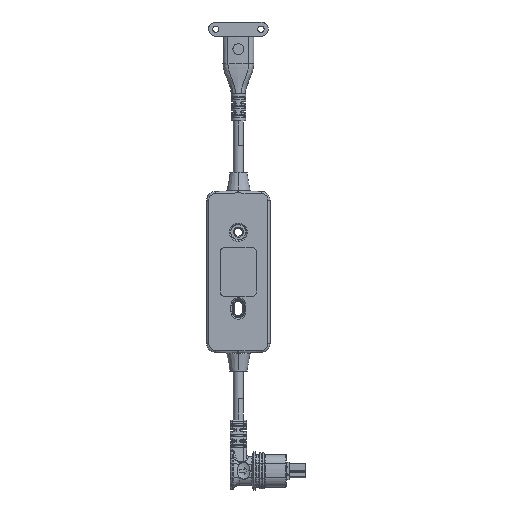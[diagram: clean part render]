
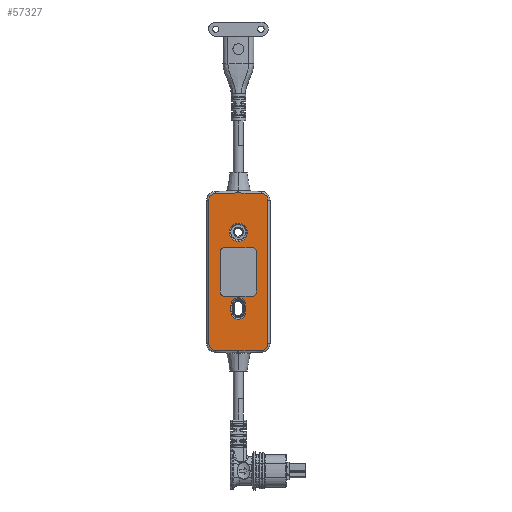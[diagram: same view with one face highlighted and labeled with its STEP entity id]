
A CAD part, front view. The second image highlights one B-rep face of the part: STEP entity #57327.
In plain terms, the highlighted planar face has unit normal (0, -1, 0).
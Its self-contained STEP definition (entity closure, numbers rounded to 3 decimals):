
#20469=CARTESIAN_POINT('',(0.,-7.75,-22.));
#20470=DIRECTION('',(0.,1.,0.));
#20471=DIRECTION('',(1.,0.,0.));
#20472=AXIS2_PLACEMENT_3D('',#20469,#20470,#20471);
#20474=DIRECTION('',(0.,0.,-1.));
#20475=VECTOR('',#20474,3.6);
#20476=CARTESIAN_POINT('',(4.118,-7.75,-18.4));
#20477=LINE('',#20476,#20475);
#20478=CARTESIAN_POINT('',(0.,-7.75,-18.4));
#20479=DIRECTION('',(0.,1.,0.));
#20480=DIRECTION('',(-1.,0.,0.));
#20481=AXIS2_PLACEMENT_3D('',#20478,#20479,#20480);
#20483=DIRECTION('',(0.,0.,1.));
#20484=VECTOR('',#20483,3.6);
#20485=CARTESIAN_POINT('',(-4.118,-7.75,-22.));
#20486=LINE('',#20485,#20484);
#20487=CARTESIAN_POINT('',(0.,-7.75,22.));
#20488=DIRECTION('',(0.,1.,0.));
#20489=DIRECTION('',(0.,0.,-1.));
#20490=AXIS2_PLACEMENT_3D('',#20487,#20488,#20489);
#20492=CARTESIAN_POINT('',(0.,-7.75,22.));
#20493=DIRECTION('',(0.,1.,0.));
#20494=DIRECTION('',(0.,0.,1.));
#20495=AXIS2_PLACEMENT_3D('',#20492,#20493,#20494);
#20497=DIRECTION('',(0.,0.,1.));
#20498=VECTOR('',#20497,79.162);
#20499=CARTESIAN_POINT('',(16.382,-7.75,-39.581));
#20500=LINE('',#20499,#20498);
#20501=CARTESIAN_POINT('',(12.5,-7.75,-39.581));
#20502=DIRECTION('',(0.,-1.,0.));
#20503=DIRECTION('',(0.017,0.,-1.));
#20504=AXIS2_PLACEMENT_3D('',#20501,#20502,#20503);
#20506=DIRECTION('',(1.,0.,0.017));
#20507=VECTOR('',#20506,12.24);
#20508=CARTESIAN_POINT('',(0.33,-7.75,-43.676));
#20509=LINE('',#20508,#20507);
#20510=CARTESIAN_POINT('',(0.,-7.75,-24.797));
#20511=DIRECTION('',(0.,-1.,0.));
#20512=DIRECTION('',(-0.017,0.,-1.));
#20513=AXIS2_PLACEMENT_3D('',#20510,#20511,#20512);
#20515=DIRECTION('',(1.,0.,-0.017));
#20516=VECTOR('',#20515,12.24);
#20517=CARTESIAN_POINT('',(-12.568,-7.75,-43.462));
#20518=LINE('',#20517,#20516);
#20519=CARTESIAN_POINT('',(-12.5,-7.75,-39.581));
#20520=DIRECTION('',(0.,-1.,0.));
#20521=DIRECTION('',(-1.,0.,0.));
#20522=AXIS2_PLACEMENT_3D('',#20519,#20520,#20521);
#20524=DIRECTION('',(0.,0.,-1.));
#20525=VECTOR('',#20524,79.162);
#20526=CARTESIAN_POINT('',(-16.382,-7.75,39.581));
#20527=LINE('',#20526,#20525);
#20528=CARTESIAN_POINT('',(-12.5,-7.75,39.581));
#20529=DIRECTION('',(0.,-1.,0.));
#20530=DIRECTION('',(-0.017,0.,1.));
#20531=AXIS2_PLACEMENT_3D('',#20528,#20529,#20530);
#20533=DIRECTION('',(-1.,0.,-0.017));
#20534=VECTOR('',#20533,12.24);
#20535=CARTESIAN_POINT('',(-0.33,-7.75,43.676));
#20536=LINE('',#20535,#20534);
#20537=CARTESIAN_POINT('',(0.,-7.75,24.797));
#20538=DIRECTION('',(0.,-1.,0.));
#20539=DIRECTION('',(0.017,0.,1.));
#20540=AXIS2_PLACEMENT_3D('',#20537,#20538,#20539);
#20542=DIRECTION('',(-1.,0.,0.017));
#20543=VECTOR('',#20542,12.24);
#20544=CARTESIAN_POINT('',(12.568,-7.75,43.462));
#20545=LINE('',#20544,#20543);
#20546=CARTESIAN_POINT('',(12.5,-7.75,39.581));
#20547=DIRECTION('',(0.,-1.,0.));
#20548=DIRECTION('',(1.,0.,0.));
#20549=AXIS2_PLACEMENT_3D('',#20546,#20547,#20548);
#20551=CARTESIAN_POINT('',(-7.6,-7.75,-11.1));
#20552=DIRECTION('',(0.,-1.,0.));
#20553=DIRECTION('',(-1.,0.,0.));
#20554=AXIS2_PLACEMENT_3D('',#20551,#20552,#20553);
#20556=DIRECTION('',(1.,0.,0.));
#20557=VECTOR('',#20556,15.2);
#20558=CARTESIAN_POINT('',(-7.6,-7.75,-13.509));
#20559=LINE('',#20558,#20557);
#20560=CARTESIAN_POINT('',(7.6,-7.75,-11.1));
#20561=DIRECTION('',(0.,-1.,0.));
#20562=DIRECTION('',(0.,0.,-1.));
#20563=AXIS2_PLACEMENT_3D('',#20560,#20561,#20562);
#20565=DIRECTION('',(0.,0.,1.));
#20566=VECTOR('',#20565,22.2);
#20567=CARTESIAN_POINT('',(10.009,-7.75,-11.1));
#20568=LINE('',#20567,#20566);
#20569=CARTESIAN_POINT('',(7.6,-7.75,11.1));
#20570=DIRECTION('',(0.,-1.,0.));
#20571=DIRECTION('',(1.,0.,0.));
#20572=AXIS2_PLACEMENT_3D('',#20569,#20570,#20571);
#20574=DIRECTION('',(-1.,0.,0.));
#20575=VECTOR('',#20574,15.2);
#20576=CARTESIAN_POINT('',(7.6,-7.75,13.509));
#20577=LINE('',#20576,#20575);
#20578=CARTESIAN_POINT('',(-7.6,-7.75,11.1));
#20579=DIRECTION('',(0.,-1.,0.));
#20580=DIRECTION('',(0.,0.,1.));
#20581=AXIS2_PLACEMENT_3D('',#20578,#20579,#20580);
#20583=DIRECTION('',(0.,0.,-1.));
#20584=VECTOR('',#20583,22.2);
#20585=CARTESIAN_POINT('',(-10.009,-7.75,11.1));
#20586=LINE('',#20585,#20584);
#22199=CARTESIAN_POINT('',(-10.009,-7.75,-11.1));
#22200=CARTESIAN_POINT('',(-7.6,-7.75,-13.509));
#22201=VERTEX_POINT('',#22199);
#22202=VERTEX_POINT('',#22200);
#22203=CARTESIAN_POINT('',(7.6,-7.75,-13.509));
#22204=VERTEX_POINT('',#22203);
#22205=CARTESIAN_POINT('',(10.009,-7.75,-11.1));
#22206=VERTEX_POINT('',#22205);
#22207=CARTESIAN_POINT('',(10.009,-7.75,11.1));
#22208=VERTEX_POINT('',#22207);
#22209=CARTESIAN_POINT('',(7.6,-7.75,13.509));
#22210=VERTEX_POINT('',#22209);
#22211=CARTESIAN_POINT('',(-7.6,-7.75,13.509));
#22212=VERTEX_POINT('',#22211);
#22213=CARTESIAN_POINT('',(-10.009,-7.75,11.1));
#22214=VERTEX_POINT('',#22213);
#22223=CARTESIAN_POINT('',(16.382,-7.75,-39.581));
#22224=CARTESIAN_POINT('',(16.382,-7.75,39.581));
#22225=VERTEX_POINT('',#22223);
#22226=VERTEX_POINT('',#22224);
#22231=CARTESIAN_POINT('',(-16.382,-7.75,39.581));
#22232=CARTESIAN_POINT('',(-16.382,-7.75,-39.581));
#22233=VERTEX_POINT('',#22231);
#22234=VERTEX_POINT('',#22232);
#22239=CARTESIAN_POINT('',(0.,-7.75,16.982));
#22240=CARTESIAN_POINT('',(0.,-7.75,27.018));
#22241=VERTEX_POINT('',#22239);
#22242=VERTEX_POINT('',#22240);
#22247=CARTESIAN_POINT('',(4.118,-7.75,-22.));
#22248=CARTESIAN_POINT('',(-4.118,-7.75,-22.));
#22249=VERTEX_POINT('',#22247);
#22250=VERTEX_POINT('',#22248);
#22255=CARTESIAN_POINT('',(-4.118,-7.75,-18.4));
#22256=VERTEX_POINT('',#22255);
#22259=CARTESIAN_POINT('',(4.118,-7.75,-18.4));
#22260=VERTEX_POINT('',#22259);
#22303=CARTESIAN_POINT('',(12.568,-7.75,43.462));
#22304=CARTESIAN_POINT('',(0.33,-7.75,43.676));
#22305=VERTEX_POINT('',#22303);
#22306=VERTEX_POINT('',#22304);
#22311=CARTESIAN_POINT('',(-0.33,-7.75,43.676));
#22312=VERTEX_POINT('',#22311);
#22315=CARTESIAN_POINT('',(-12.568,-7.75,43.462));
#22316=VERTEX_POINT('',#22315);
#22319=CARTESIAN_POINT('',(-12.568,-7.75,-43.462));
#22320=VERTEX_POINT('',#22319);
#22323=CARTESIAN_POINT('',(-0.33,-7.75,-43.676));
#22324=VERTEX_POINT('',#22323);
#22327=CARTESIAN_POINT('',(0.33,-7.75,-43.676));
#22328=VERTEX_POINT('',#22327);
#22331=CARTESIAN_POINT('',(12.568,-7.75,-43.462));
#22332=VERTEX_POINT('',#22331);
#57263=CARTESIAN_POINT('',(0.,-7.75,0.));
#57264=DIRECTION('',(0.,1.,0.));
#57265=DIRECTION('',(1.,0.,0.));
#57266=AXIS2_PLACEMENT_3D('',#57263,#57264,#57265);
#57267=PLANE('',#57266);
#57269=ORIENTED_EDGE('',*,*,#57268,.F.);
#57271=ORIENTED_EDGE('',*,*,#57270,.F.);
#57273=ORIENTED_EDGE('',*,*,#57272,.F.);
#57275=ORIENTED_EDGE('',*,*,#57274,.F.);
#57277=ORIENTED_EDGE('',*,*,#57276,.F.);
#57278=ORIENTED_EDGE('',*,*,#57253,.F.);
#57280=ORIENTED_EDGE('',*,*,#57279,.F.);
#57282=ORIENTED_EDGE('',*,*,#57281,.F.);
#57284=ORIENTED_EDGE('',*,*,#57283,.F.);
#57286=ORIENTED_EDGE('',*,*,#57285,.F.);
#57288=ORIENTED_EDGE('',*,*,#57287,.F.);
#57290=ORIENTED_EDGE('',*,*,#57289,.F.);
#57291=EDGE_LOOP('',(#57269,#57271,#57273,#57275,#57277,#57278,#57280,#57282,
#57284,#57286,#57288,#57290));
#57292=FACE_OUTER_BOUND('',#57291,.F.);
#57294=ORIENTED_EDGE('',*,*,#57293,.F.);
#57296=ORIENTED_EDGE('',*,*,#57295,.F.);
#57297=EDGE_LOOP('',(#57294,#57296));
#57298=FACE_BOUND('',#57297,.F.);
#57300=ORIENTED_EDGE('',*,*,#57299,.F.);
#57302=ORIENTED_EDGE('',*,*,#57301,.F.);
#57304=ORIENTED_EDGE('',*,*,#57303,.F.);
#57306=ORIENTED_EDGE('',*,*,#57305,.F.);
#57307=EDGE_LOOP('',(#57300,#57302,#57304,#57306));
#57308=FACE_BOUND('',#57307,.F.);
#57310=ORIENTED_EDGE('',*,*,#57309,.T.);
#57312=ORIENTED_EDGE('',*,*,#57311,.T.);
#57314=ORIENTED_EDGE('',*,*,#57313,.T.);
#57316=ORIENTED_EDGE('',*,*,#57315,.T.);
#57318=ORIENTED_EDGE('',*,*,#57317,.T.);
#57320=ORIENTED_EDGE('',*,*,#57319,.T.);
#57322=ORIENTED_EDGE('',*,*,#57321,.T.);
#57324=ORIENTED_EDGE('',*,*,#57323,.T.);
#57325=EDGE_LOOP('',(#57310,#57312,#57314,#57316,#57318,#57320,#57322,#57324));
#57326=FACE_BOUND('',#57325,.F.);
#57327=ADVANCED_FACE('',(#57292,#57298,#57308,#57326),#57267,.F.);
#20473=CIRCLE('',#20472,4.118);
#20482=CIRCLE('',#20481,4.118);
#20491=CIRCLE('',#20490,5.018);
#20496=CIRCLE('',#20495,5.018);
#20505=CIRCLE('',#20504,3.882);
#20514=CIRCLE('',#20513,18.882);
#20523=CIRCLE('',#20522,3.882);
#20532=CIRCLE('',#20531,3.882);
#20541=CIRCLE('',#20540,18.882);
#20550=CIRCLE('',#20549,3.882);
#20555=CIRCLE('',#20554,2.409);
#20564=CIRCLE('',#20563,2.409);
#20573=CIRCLE('',#20572,2.409);
#20582=CIRCLE('',#20581,2.409);
#57253=EDGE_CURVE('',#22234,#22320,#20523,.T.);
#57268=EDGE_CURVE('',#22225,#22226,#20500,.T.);
#57270=EDGE_CURVE('',#22332,#22225,#20505,.T.);
#57272=EDGE_CURVE('',#22328,#22332,#20509,.T.);
#57274=EDGE_CURVE('',#22324,#22328,#20514,.T.);
#57276=EDGE_CURVE('',#22320,#22324,#20518,.T.);
#57279=EDGE_CURVE('',#22233,#22234,#20527,.T.);
#57281=EDGE_CURVE('',#22316,#22233,#20532,.T.);
#57283=EDGE_CURVE('',#22312,#22316,#20536,.T.);
#57285=EDGE_CURVE('',#22306,#22312,#20541,.T.);
#57287=EDGE_CURVE('',#22305,#22306,#20545,.T.);
#57289=EDGE_CURVE('',#22226,#22305,#20550,.T.);
#57293=EDGE_CURVE('',#22241,#22242,#20491,.T.);
#57295=EDGE_CURVE('',#22242,#22241,#20496,.T.);
#57299=EDGE_CURVE('',#22249,#22250,#20473,.T.);
#57301=EDGE_CURVE('',#22260,#22249,#20477,.T.);
#57303=EDGE_CURVE('',#22256,#22260,#20482,.T.);
#57305=EDGE_CURVE('',#22250,#22256,#20486,.T.);
#57309=EDGE_CURVE('',#22201,#22202,#20555,.T.);
#57311=EDGE_CURVE('',#22202,#22204,#20559,.T.);
#57313=EDGE_CURVE('',#22204,#22206,#20564,.T.);
#57315=EDGE_CURVE('',#22206,#22208,#20568,.T.);
#57317=EDGE_CURVE('',#22208,#22210,#20573,.T.);
#57319=EDGE_CURVE('',#22210,#22212,#20577,.T.);
#57321=EDGE_CURVE('',#22212,#22214,#20582,.T.);
#57323=EDGE_CURVE('',#22214,#22201,#20586,.T.);
